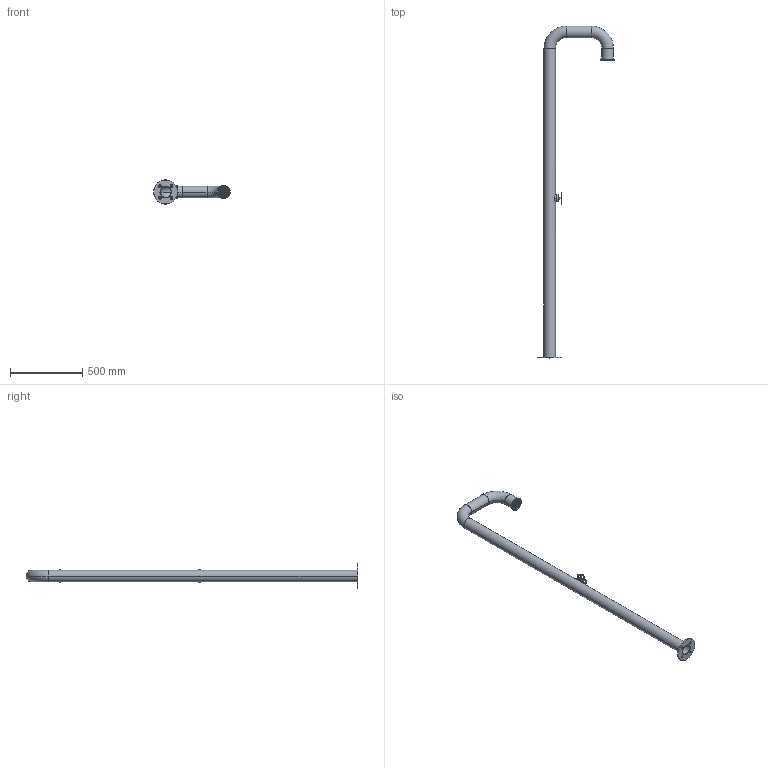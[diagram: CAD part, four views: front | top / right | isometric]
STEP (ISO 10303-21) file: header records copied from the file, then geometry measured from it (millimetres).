
FILE_DESCRIPTION((''),'2;1');
FILE_NAME('20930T5600000000_SW0002','2023-03-29T11:02:20',('matteo.follador'),(''),'CREO PARAMETRIC BY PTC INC, 2020281','CREO PARAMETRIC BY PTC INC, 2020281','');
FILE_SCHEMA(('AUTOMOTIVE_DESIGN { 1 0 10303 214 1 1 1 1 }'));
Products named in the file (1): 20930T5600000000_SW0002
Bounding box: 529.75 x 2291 x 167 mm (x, y, z)
Volume: 1486113.2 mm3; surface area: 1422947.4 mm2
Topology: 3 solids, 3 shells, 1206 faces, 3132 edges, 2005 vertices
Faces by surface type: cone 488, torus 286, cylinder 254, plane 172, sphere 6
Entity records: 96635 total; most frequent: CARTESIAN_POINT 61423, ORIENTED_EDGE 6260, DIRECTION 5347, EDGE_CURVE 3130, AXIS2_PLACEMENT_3D 2250, VERTEX_POINT 2005, EDGE_LOOP 1481, B_SPLINE_CURVE_WITH_KNOTS 1252
